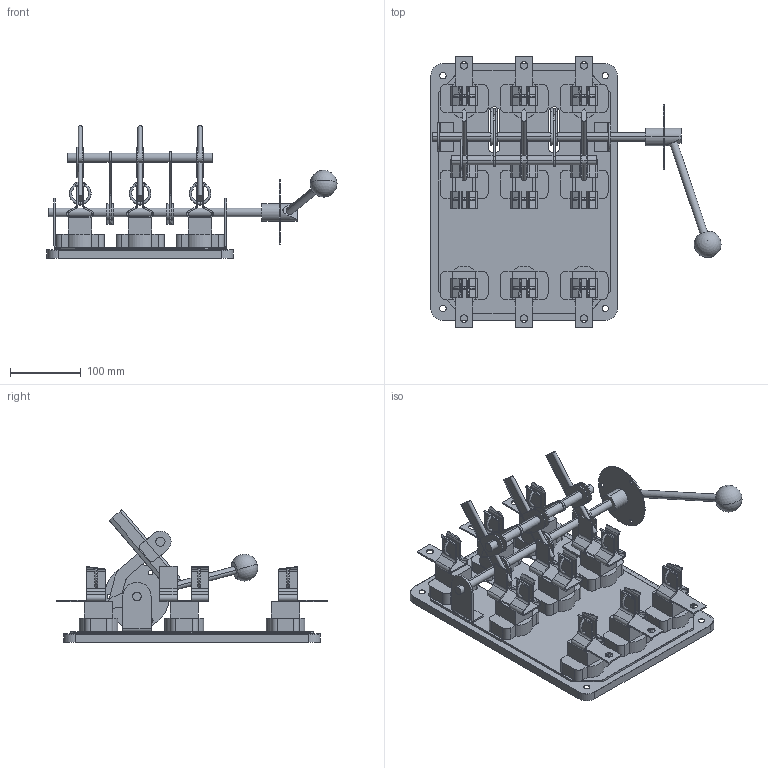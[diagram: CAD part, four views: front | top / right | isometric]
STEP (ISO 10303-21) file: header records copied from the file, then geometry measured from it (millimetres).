
FILE_DESCRIPTION (( 'STEP AP214' ), '1' );
FILE_NAME ('Ðàçúåäèíèòåëü ÐÏÁ-4Ï-400À-áåçÏÂ-Ó3-ÊÝÀÇ.STEP', '2023-05-01T20:04:50', ( '' ), ( '' ), 'SwSTEP 2.0', 'SolidWorks 2018', '' );
FILE_SCHEMA (( 'AUTOMOTIVE_DESIGN' ));
Length unit declared in the file: millimetre
Products named in the file (1): Ðàçúåäèíèòåëü ÐÏÁ-4Ï-400À-áåçÏÂ-Ó3-ÊÝÀÇ
Bounding box: 411.16 x 384 x 187.93 mm (x, y, z)
Volume: 1453855.4 mm3; surface area: 529178.4 mm2
Topology: 9 solids, 9 shells, 989 faces, 2760 edges, 1802 vertices
Faces by surface type: plane 563, cylinder 352, torus 72, sphere 2
Entity records: 44947 total; most frequent: CARTESIAN_POINT 7857, ORIENTED_EDGE 5510, DIRECTION 5455, EDGE_CURVE 2755, AXIS2_PLACEMENT_3D 1849, VERTEX_POINT 1799, VECTOR 1757, LINE 1757
